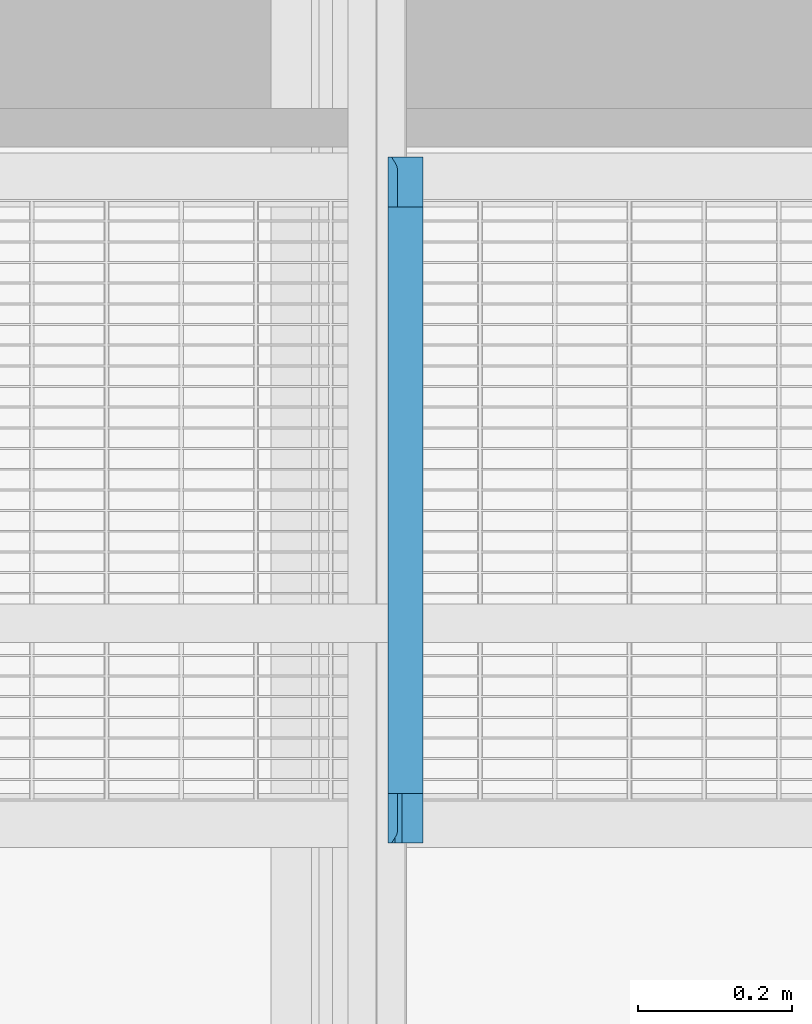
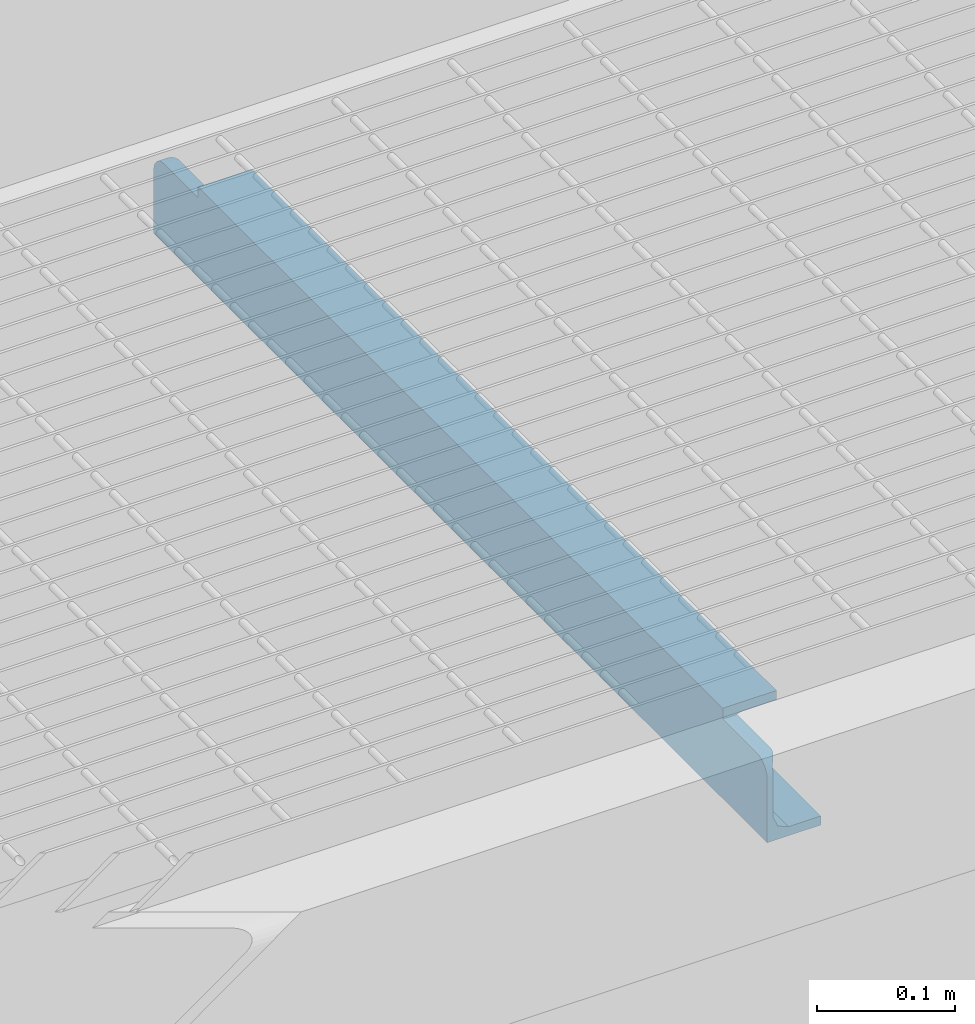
# One storey, part 47 of 75: 1 beam.
"""IFC2X3 building model written with IfcOpenShell, lengths in metres."""

from ifc_helpers import new_model, entity, si_unit, converted_unit, derived_unit, direction, frame, origin, place, context, subcontext, project, spatial, faceted_brep, material, type_object, element, save


model = new_model("IFC2X3")

# Units and contexts
model_context = context("Model", 3, precision=1e-05, world=origin(), true_north=direction((6.12303176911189e-17, 1.0)))
body_context = subcontext(model_context, "Body", "Model", "MODEL_VIEW")
ifc_project = project(units=[si_unit("LENGTHUNIT", "METRE"), si_unit("AREAUNIT", "SQUARE_METRE"), si_unit("VOLUMEUNIT", "CUBIC_METRE"), converted_unit("PLANEANGLEUNIT", "DEGREE", entity("IfcRatioMeasure", 0.0174532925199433), si_unit("PLANEANGLEUNIT", "RADIAN"), dimensions=[0, 0, 0, 0, 0, 0, 0]), si_unit("MASSUNIT", "GRAM", prefix="KILO"), derived_unit("MASSDENSITYUNIT", [(si_unit("MASSUNIT", "GRAM", prefix="KILO"), 1), (si_unit("LENGTHUNIT", "METRE"), -3)]), derived_unit("MOMENTOFINERTIAUNIT", [(si_unit("LENGTHUNIT", "METRE"), 4)]), si_unit("TIMEUNIT", "SECOND"), si_unit("FREQUENCYUNIT", "HERTZ"), si_unit("THERMODYNAMICTEMPERATUREUNIT", "DEGREE_CELSIUS"), derived_unit("THERMALTRANSMITTANCEUNIT", [(si_unit("MASSUNIT", "GRAM", prefix="KILO"), 1), (si_unit("THERMODYNAMICTEMPERATUREUNIT", "KELVIN"), -1), (si_unit("TIMEUNIT", "SECOND"), -3)]), derived_unit("VOLUMETRICFLOWRATEUNIT", [(si_unit("LENGTHUNIT", "METRE"), 3), (si_unit("TIMEUNIT", "SECOND"), -1)]), si_unit("ELECTRICCURRENTUNIT", "AMPERE"), si_unit("ELECTRICVOLTAGEUNIT", "VOLT"), si_unit("POWERUNIT", "WATT"), si_unit("FORCEUNIT", "NEWTON", prefix="KILO"), si_unit("ILLUMINANCEUNIT", "LUX"), si_unit("LUMINOUSFLUXUNIT", "LUMEN"), si_unit("LUMINOUSINTENSITYUNIT", "CANDELA"), derived_unit("USERDEFINED", [(si_unit("MASSUNIT", "GRAM", prefix="KILO"), -1), (si_unit("LENGTHUNIT", "METRE"), -2), (si_unit("TIMEUNIT", "SECOND"), 3), (si_unit("LUMINOUSFLUXUNIT", "LUMEN"), 1)]), derived_unit("LINEARVELOCITYUNIT", [(si_unit("LENGTHUNIT", "METRE"), 1), (si_unit("TIMEUNIT", "SECOND"), -1)]), si_unit("PRESSUREUNIT", "PASCAL"), derived_unit("USERDEFINED", [(si_unit("LENGTHUNIT", "METRE"), -2), (si_unit("MASSUNIT", "GRAM", prefix="KILO"), 1), (si_unit("TIMEUNIT", "SECOND"), -2)]), derived_unit("LINEARFORCEUNIT", [(si_unit("MASSUNIT", "GRAM", prefix="KILO"), 1), (si_unit("LENGTHUNIT", "METRE"), 1), (si_unit("TIMEUNIT", "SECOND"), -2), (si_unit("LENGTHUNIT", "METRE"), -1)]), derived_unit("PLANARFORCEUNIT", [(si_unit("MASSUNIT", "GRAM", prefix="KILO"), 1), (si_unit("LENGTHUNIT", "METRE"), 1), (si_unit("TIMEUNIT", "SECOND"), -2), (si_unit("LENGTHUNIT", "METRE"), -2)])], contexts=[model_context])

# Site, building, storey
site_placement = place(None, origin())
site = spatial("IfcSite", under=ifc_project, at=site_placement, Name="Superficie", CompositionType="ELEMENT")
building_placement = place(site_placement, origin())
building = spatial("IfcBuilding", under=site, at=building_placement, Name="Telegestiones", CompositionType="ELEMENT")
storey_placement = place(building_placement, origin())
storey = spatial("IfcBuildingStorey", under=building, at=storey_placement, Name="Nivel 0_NPT", CompositionType="ELEMENT", Elevation=0.0)

# Beam
ifc_material = material(Name="Metal - Acero - 345 MPa")
beam_type = type_object("IfcBeamType", Name="U-Canales de ala paralela:UAP80", PredefinedType="NOTDEFINED")
beam_placement = place(storey_placement, frame((7.46928977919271, 12.7898119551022, 17.78), z_axis=(0.0, 0.0, 1.0), x_axis=(0.0, -1.0, 0.0)))
element("IfcBeam", 1, at=beam_placement, inside=storey, type_object=beam_type, material=ifc_material, Name="U-Canales de ala paralela:UAP80", ObjectType="U-Canales de ala paralela:UAP80", context=body_context, shape_type="Brep", body=[
    faceted_brep([(-0.00159527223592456, 0.0450000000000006, 0.0), (-0.00159527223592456, 0.0450000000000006, 0.00799999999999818), (-0.00159527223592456, 0.0180000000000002, 0.00799999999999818), (-0.00159527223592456, 0.0157019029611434, 0.00895190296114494), (-0.00159527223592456, 0.0134038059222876, 0.00990380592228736), (-0.00159527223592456, 0.0111057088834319, 0.0108557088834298), (-0.00159527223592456, 0.00880761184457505, 0.0118076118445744), (-0.00159527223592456, 0.00771840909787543, 0.0144371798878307), (-0.00159527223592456, 0.00662920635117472, 0.0170667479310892), (-0.00159527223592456, 0.00499999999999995, 0.0209999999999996), (-0.00159527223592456, 0.00499999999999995, 0.0579413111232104), (-0.00159527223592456, 0.0, 0.0579413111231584), (-0.00159527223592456, 0.0, 0.0), (-0.826295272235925, 0.0, 0.0799999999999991), (-0.0658952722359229, 0.0, 0.0799999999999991), (-0.0658952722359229, 0.0450000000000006, 0.0799999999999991), (-0.826295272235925, 0.0450000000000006, 0.0799999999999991), (-0.0658952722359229, 0.0450000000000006, 0.0719999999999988), (-0.826295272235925, 0.0450000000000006, 0.0719999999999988), (-0.890795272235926, 0.0450000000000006, 0.00799999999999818), (-0.890795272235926, 0.0450000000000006, 0.0), (-0.0658952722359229, 0.0180000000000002, 0.0719999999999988), (-0.128842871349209, 0.0180000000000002, 0.0719999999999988), (-0.194304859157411, 0.0180000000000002, 0.0719999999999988), (-0.322714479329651, 0.0180000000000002, 0.0719999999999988), (-0.44860967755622, 0.0180000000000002, 0.072000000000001), (-0.574504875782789, 0.0180000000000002, 0.072000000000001), (-0.700400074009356, 0.0180000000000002, 0.0719999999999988), (-0.763347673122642, 0.0180000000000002, 0.0719999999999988), (-0.826295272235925, 0.0180000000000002, 0.0719999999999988), (-0.125338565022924, 0.0087347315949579, 0.0681189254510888), (-0.00990097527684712, 0.00971902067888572, 0.069021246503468), (-0.00722207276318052, 0.00805140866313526, 0.0673681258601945), (-0.544296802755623, 0.0066719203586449, 0.0653776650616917), (-0.463738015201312, 0.00590908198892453, 0.0637759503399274), (-0.537050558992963, 0.00560250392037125, 0.0629117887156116), (-0.792641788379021, 0.00525335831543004, 0.0615540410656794), (-0.794133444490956, 0.00499999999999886, 0.0589999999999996), (-0.890381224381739, 0.00499999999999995, 0.0589999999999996), (-0.0658952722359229, 0.0119378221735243, 0.0705000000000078), (-0.13867918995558, 0.0108749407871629, 0.0698735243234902), (-0.289684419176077, 0.00818591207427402, 0.0675254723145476), (-0.235689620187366, 0.00983678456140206, 0.0691174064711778), (-0.221438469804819, 0.00711297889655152, 0.0661044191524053), (-0.828358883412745, 0.00588467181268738, 0.0637136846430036), (-0.754190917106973, 0.00586488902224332, 0.063662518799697), (-0.122570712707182, 0.00586898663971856, 0.0636731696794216), (-0.00489743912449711, 0.00653775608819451, 0.0651332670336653), (-0.00303111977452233, 0.00542889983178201, 0.0623117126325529), (-0.139747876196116, 0.0133736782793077, 0.0711489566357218), (-0.0658952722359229, 0.0148775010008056, 0.0716194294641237), (-0.826295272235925, 0.0148775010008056, 0.0716194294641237), (-0.725006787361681, 0.007054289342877, 0.0660136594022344), (-0.806159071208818, 0.007190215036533, 0.066221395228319), (-0.751188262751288, 0.00871967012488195, 0.0681035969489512), (-0.821741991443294, 0.00878771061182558, 0.0681724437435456), (-0.73187387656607, 0.0157137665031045, 0.0717973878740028), (-0.656388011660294, 0.0158751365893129, 0.0718251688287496), (-0.887293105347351, 0.00653775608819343, 0.0651332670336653), (-0.884968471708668, 0.00805140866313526, 0.0673681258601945), (-0.15342786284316, 0.00681728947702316, 0.0656292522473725), (-0.0851009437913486, 0.00708655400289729, 0.0660637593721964), (-0.223870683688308, 0.00557806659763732, 0.0628334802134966), (-0.324805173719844, 0.00685931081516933, 0.0656996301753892), (-0.889159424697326, 0.00542889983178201, 0.0623117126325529), (-0.0163952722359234, 0.0119378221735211, 0.0705000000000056), (-0.0129474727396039, 0.0112305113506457, 0.0700983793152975), (-0.875795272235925, 0.0119378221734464, 0.0704999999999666), (-0.826295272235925, 0.0119378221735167, 0.0705000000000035), (-0.879243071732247, 0.0112305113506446, 0.0700983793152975), (-0.399380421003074, 0.00536884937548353, 0.0620747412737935), (-0.392844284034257, 0.00621995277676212, 0.0644982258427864), (-0.226457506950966, 0.0133736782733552, 0.0711489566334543), (-0.161573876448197, 0.0157225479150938, 0.0717989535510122), (-0.753454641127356, 0.0133736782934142, 0.0711489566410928), (-0.66760529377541, 0.0133736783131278, 0.0711489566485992), (-0.710529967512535, 0.0108989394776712, 0.069889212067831), (-0.882289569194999, 0.00971902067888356, 0.0690212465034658), (-0.390878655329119, 0.0147556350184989, 0.0715886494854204), (-0.511557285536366, 0.0147219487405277, 0.0715799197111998), (-0.447031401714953, 0.0116878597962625, 0.0703647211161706), (-0.155170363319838, 0.00522625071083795, 0.0614148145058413), (-0.0800317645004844, 0.00520855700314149, 0.0613192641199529), (-0.127704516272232, 0.00499999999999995, 0.0589999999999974), (-0.717894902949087, 0.00523967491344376, 0.0614847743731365), (-0.66446315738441, 0.00890351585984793, 0.0682873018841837), (-0.313627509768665, 0.0152996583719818, 0.0717164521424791), (-0.23643414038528, 0.0158580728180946, 0.0718223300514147), (-0.566912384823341, 0.011307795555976, 0.0701451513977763), (-0.44972530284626, 0.007164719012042, 0.0661830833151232), (-0.330812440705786, 0.01176120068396, 0.0704051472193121), (-0.00180932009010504, 0.00499999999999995, 0.0589999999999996), (-0.374471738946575, 0.00795566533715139, 0.067252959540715), (-0.339661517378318, 0.00960203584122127, 0.0689234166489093), (-0.495596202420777, 0.00856943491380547, 0.0679478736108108), (-0.419471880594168, 0.00955595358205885, 0.0688842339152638), (-0.591250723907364, 0.0142535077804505, 0.0714484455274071), (-0.637492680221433, 0.0107328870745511, 0.0697791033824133), (-0.580926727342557, 0.00847032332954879, 0.0678422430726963), (-0.614751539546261, 0.00554163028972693, 0.0627133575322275), (-0.479182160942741, 0.00521908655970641, 0.0613766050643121), (-0.63679408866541, 0.00709380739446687, 0.0660749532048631), (-0.601637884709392, 0.00499999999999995, 0.0589999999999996), (-0.697885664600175, 0.00499999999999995, 0.0589999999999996), (-0.682036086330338, 0.00583156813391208, 0.0635748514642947), (-0.50539010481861, 0.00499999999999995, 0.0589999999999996), (-0.327009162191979, 0.00576169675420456, 0.0633845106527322), (-0.253599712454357, 0.00499999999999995, 0.0589999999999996), (-0.379494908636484, 0.00499999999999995, 0.0589999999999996), (-0.320300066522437, 0.00499999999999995, 0.0209999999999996), (-0.25338564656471, 0.00499999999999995, 0.0209999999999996), (-0.320300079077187, 0.0057508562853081, 0.0166458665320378), (-0.387214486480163, 0.00499999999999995, 0.0209999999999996), (-0.7395989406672, 0.0155186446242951, 0.00823900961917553), (-0.726697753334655, 0.0130251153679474, 0.00898956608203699), (-0.64723797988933, 0.0147457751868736, 0.00841389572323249), (-0.815533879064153, 0.0157610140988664, 0.00819426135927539), (-0.816073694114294, 0.0130251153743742, 0.0089895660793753), (-0.450162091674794, 0.0129391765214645, 0.00902552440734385), (-0.339012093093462, 0.0142912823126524, 0.00854024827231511), (-0.460026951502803, 0.0157277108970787, 0.00820012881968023), (-0.890795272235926, 0.0146353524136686, 0.00844296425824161), (-0.890795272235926, 0.0115000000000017, 0.00974166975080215), (-0.237690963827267, 0.00632406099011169, 0.0152840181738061), (-0.160412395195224, 0.00699071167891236, 0.0140865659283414), (-0.272157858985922, 0.00779328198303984, 0.0129487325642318), (-0.786764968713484, 0.010086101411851, 0.0106864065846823), (-0.668704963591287, 0.00938049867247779, 0.0112683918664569), (-0.764900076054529, 0.0180000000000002, 0.00800000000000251), (-0.890795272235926, 0.0180000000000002, 0.00800000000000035), (-0.890795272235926, 0.00880761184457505, 0.0118076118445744), (-0.890795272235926, 0.00674166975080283, 0.0144999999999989), (-0.814920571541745, 0.00768640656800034, 0.013086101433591), (-0.516412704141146, 0.0052207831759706, 0.0186142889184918), (-0.449152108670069, 0.00533707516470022, 0.0180588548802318), (-0.543517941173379, 0.00580869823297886, 0.0164864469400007), (-0.7162319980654, 0.00634171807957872, 0.0152480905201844), (-0.653545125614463, 0.0058041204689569, 0.0164988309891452), (-0.594912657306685, 0.00737648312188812, 0.013507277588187), (-0.764900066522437, 0.00499999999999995, 0.0209999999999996), (-0.63900489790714, 0.00499999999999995, 0.0209999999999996), (-0.726095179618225, 0.00531473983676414, 0.0181567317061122), (-0.552968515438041, 0.0133322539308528, 0.00886689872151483), (-0.785985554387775, 0.00598956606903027, 0.0160251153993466), (-0.812932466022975, 0.00521472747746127, 0.0186469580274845), (-0.724578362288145, 0.00768640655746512, 0.0130861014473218), (-0.890795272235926, 0.00544296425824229, 0.0176353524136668), (-0.890795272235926, 0.00499999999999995, 0.0209999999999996), (-0.645709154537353, 0.0118808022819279, 0.00953023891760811), (-0.60753108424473, 0.00522938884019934, 0.0185686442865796), (-0.5760572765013, 0.00499999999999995, 0.0209999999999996), (-0.242607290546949, 0.0154504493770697, 0.00825245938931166), (-0.253535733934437, 0.0129416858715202, 0.00902446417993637), (-0.450162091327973, 0.00665443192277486, 0.0146534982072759), (-0.362103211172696, 0.00693621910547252, 0.0141741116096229), (-0.382421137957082, 0.00880834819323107, 0.0118068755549), (-0.50463990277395, 0.00839296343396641, 0.0122418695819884), (-0.523524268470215, 0.00689342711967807, 0.014243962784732), (-0.096403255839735, 0.00849360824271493, 0.0121327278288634), (-0.0810038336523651, 0.00628511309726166, 0.0153642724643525), (-0.105489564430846, 0.0112139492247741, 0.00991173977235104), (-0.0882125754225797, 0.014072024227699, 0.00860762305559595), (-0.184568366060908, 0.00941996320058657, 0.0112335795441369), (-0.190438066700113, 0.0054399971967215, 0.0176464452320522), (-0.0784437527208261, 0.00527256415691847, 0.0183519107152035), (-0.127490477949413, 0.00499999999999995, 0.0209999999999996), (-0.350050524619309, 0.0103830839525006, 0.0104651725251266), (-0.639004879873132, 0.0180000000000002, 0.00800000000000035), (-0.576057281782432, 0.0180000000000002, 0.00799999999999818), (-0.581701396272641, 0.0100861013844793, 0.0106864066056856), (-0.544583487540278, 0.0157404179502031, 0.00819787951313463), (-0.513109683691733, 0.0180000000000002, 0.00800000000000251), (-0.496554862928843, 0.0106756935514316, 0.0102596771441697), (-0.513109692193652, 0.00499999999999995, 0.0209999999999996), (-0.416826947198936, 0.0107321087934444, 0.010221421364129), (-0.283710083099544, 0.010794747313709, 0.01017944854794), (-0.0980000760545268, 0.0180000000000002, 0.00800000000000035), (-0.14686756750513, 0.0158367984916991, 0.00818124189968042), (-0.204108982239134, 0.0113455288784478, 0.00983227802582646), (-0.290809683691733, 0.0180000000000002, 0.00799999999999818), (-0.387214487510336, 0.0180000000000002, 0.00800000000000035), (-0.194404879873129, 0.0180000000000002, 0.00800000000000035), (-0.17848587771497, 0.0134284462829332, 0.00883032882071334), (-0.00169276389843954, 0.00499999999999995, 0.0584725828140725), (-0.890795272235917, 0.00499999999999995, 0.0555000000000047), (-0.890691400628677, 0.00499999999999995, 0.0572622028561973), (-0.890795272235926, 0.0, 0.0), (-0.0163952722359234, 0.0, 0.0705000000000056), (-0.0658952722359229, 0.0, 0.0705000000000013), (-0.826295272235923, 0.0, 0.0705000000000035), (-0.875795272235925, 0.0, 0.0705000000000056), (-0.87967755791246, 0.0, 0.0699888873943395), (-0.883295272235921, 0.0, 0.0684903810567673), (-0.886401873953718, 0.0, 0.0661066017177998), (-0.888785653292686, 0.0, 0.063000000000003), (-0.890284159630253, 0.0, 0.05938228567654), (-0.890795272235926, 0.0, 0.0555000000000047), (-0.00256789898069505, 0.0, 0.0613140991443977), (-0.00429775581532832, 0.0, 0.0643684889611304), (-0.00669011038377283, 0.0, 0.0669372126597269), (-0.00961394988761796, 0.0, 0.0688795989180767), (-0.012909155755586, 0.0, 0.0700892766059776)], [[[0, 1, 2, 3, 4, 5, 6, 7, 8, 9, 10, 11, 12]], [[13, 14, 15, 16]], [[16, 15, 17, 18]], [[19, 1, 0, 20]], [[18, 17, 21, 22, 23, 24, 25, 26, 27, 28, 29]], [[30, 31, 32]], [[33, 34, 35]], [[36, 37, 38]], [[39, 30, 40]], [[30, 39, 31]], [[41, 42, 43]], [[44, 45, 36]], [[46, 47, 48]], [[39, 49, 50]], [[22, 21, 50]], [[29, 28, 51]], [[52, 53, 54]], [[54, 53, 55]], [[30, 43, 42]], [[56, 27, 57]], [[53, 58, 59]], [[56, 28, 27]], [[60, 61, 46]], [[62, 63, 43]], [[58, 44, 64]], [[65, 66, 39]], [[67, 68, 69]], [[70, 34, 71]], [[40, 49, 39]], [[72, 73, 49]], [[32, 61, 30]], [[74, 75, 76]], [[74, 68, 51]], [[68, 77, 69]], [[25, 24, 78]], [[46, 61, 47]], [[59, 77, 55]], [[79, 78, 80]], [[81, 82, 83]], [[68, 55, 77]], [[36, 45, 84]], [[66, 31, 39]], [[76, 85, 54]], [[86, 24, 87]], [[46, 48, 82]], [[79, 80, 88]], [[34, 89, 71]], [[58, 53, 44]], [[87, 73, 72]], [[45, 53, 52]], [[59, 55, 53]], [[54, 55, 68]], [[42, 90, 72]], [[36, 84, 37]], [[91, 82, 48]], [[41, 92, 93]], [[94, 88, 80]], [[43, 63, 41]], [[80, 78, 90]], [[90, 93, 95]], [[57, 26, 96]], [[26, 25, 79]], [[88, 96, 79]], [[97, 76, 75]], [[93, 92, 95]], [[98, 97, 88]], [[35, 99, 33]], [[33, 98, 94]], [[100, 34, 70]], [[50, 73, 22]], [[42, 72, 40]], [[54, 68, 76]], [[74, 51, 56]], [[74, 76, 68]], [[54, 85, 52]], [[101, 85, 98]], [[85, 76, 97]], [[101, 98, 33]], [[94, 98, 88]], [[102, 103, 99]], [[89, 34, 33]], [[33, 99, 101]], [[45, 104, 84]], [[105, 102, 35]], [[86, 87, 72]], [[25, 78, 79]], [[36, 38, 64]], [[60, 46, 62]], [[49, 40, 72]], [[40, 30, 42]], [[45, 52, 104]], [[101, 52, 85]], [[23, 22, 73]], [[87, 23, 73]], [[49, 73, 50]], [[87, 24, 23]], [[78, 24, 86]], [[56, 57, 75]], [[28, 56, 51]], [[74, 56, 75]], [[75, 57, 96]], [[57, 27, 26]], [[75, 96, 88]], [[79, 96, 26]], [[100, 35, 34]], [[106, 107, 108]], [[45, 44, 53]], [[44, 36, 64]], [[103, 37, 84]], [[84, 99, 103]], [[99, 84, 104]], [[104, 101, 99]], [[101, 104, 52]], [[85, 97, 98]], [[88, 97, 75]], [[62, 107, 106]], [[83, 107, 81]], [[99, 35, 102]], [[105, 35, 100]], [[100, 108, 105]], [[71, 106, 70]], [[70, 108, 100]], [[70, 106, 108]], [[106, 71, 63]], [[89, 95, 92]], [[71, 89, 92]], [[94, 89, 33]], [[47, 61, 32]], [[43, 30, 60]], [[61, 60, 30]], [[43, 60, 62]], [[46, 82, 81]], [[83, 82, 91]], [[81, 62, 46]], [[62, 81, 107]], [[90, 42, 93]], [[92, 41, 63]], [[41, 93, 42]], [[80, 90, 95]], [[95, 94, 80]], [[94, 95, 89]], [[92, 63, 71]], [[62, 106, 63]], [[86, 90, 78]], [[90, 86, 72]], [[109, 110, 111, 112]], [[113, 114, 115]], [[113, 116, 117]], [[118, 119, 120]], [[121, 122, 117]], [[123, 124, 125]], [[117, 122, 126]], [[127, 114, 126]], [[116, 128, 129]], [[130, 126, 122]], [[131, 132, 130]], [[133, 134, 135]], [[136, 137, 138]], [[139, 140, 141]], [[142, 118, 120]], [[141, 143, 144]], [[136, 145, 143]], [[131, 146, 143]], [[131, 143, 132]], [[144, 146, 147]], [[143, 146, 144]], [[127, 148, 114]], [[114, 113, 117]], [[145, 126, 132]], [[127, 145, 138]], [[133, 149, 150]], [[151, 119, 152]], [[137, 135, 138]], [[153, 154, 155]], [[156, 157, 153]], [[158, 159, 7]], [[160, 4, 161]], [[162, 125, 124]], [[159, 163, 164]], [[165, 163, 110]], [[164, 165, 9]], [[125, 166, 155]], [[111, 110, 163]], [[163, 159, 124]], [[130, 132, 126]], [[145, 132, 143]], [[121, 117, 116]], [[114, 117, 126]], [[121, 116, 129]], [[113, 128, 116]], [[113, 167, 128]], [[167, 113, 115]], [[168, 167, 115]], [[115, 114, 148]], [[169, 142, 148]], [[142, 120, 170]], [[153, 155, 156]], [[115, 148, 142]], [[127, 169, 148]], [[170, 171, 168]], [[172, 118, 142]], [[138, 169, 127]], [[145, 127, 126]], [[169, 138, 156]], [[138, 157, 156]], [[153, 135, 134]], [[140, 149, 141]], [[153, 134, 111]], [[112, 134, 173]], [[156, 172, 169]], [[155, 166, 174]], [[174, 172, 156]], [[175, 125, 162]], [[163, 124, 123]], [[154, 123, 125]], [[161, 176, 177]], [[162, 124, 158]], [[161, 3, 176]], [[175, 178, 152]], [[158, 160, 162]], [[179, 180, 119]], [[181, 179, 151]], [[166, 175, 119]], [[182, 151, 152]], [[151, 179, 119]], [[120, 171, 170]], [[5, 160, 158]], [[115, 170, 168]], [[142, 170, 115]], [[120, 180, 171]], [[180, 120, 119]], [[169, 172, 142]], [[118, 172, 174]], [[119, 118, 174]], [[155, 174, 156]], [[162, 160, 178]], [[7, 6, 158]], [[182, 160, 161]], [[158, 6, 5]], [[8, 7, 159]], [[164, 8, 159]], [[124, 159, 158]], [[8, 164, 9]], [[165, 164, 163]], [[177, 182, 161]], [[182, 177, 151]], [[182, 152, 178]], [[175, 152, 119]], [[182, 178, 160]], [[162, 178, 175]], [[174, 166, 119]], [[175, 166, 125]], [[181, 151, 177]], [[4, 3, 161]], [[3, 2, 176]], [[181, 177, 176]], [[141, 136, 143]], [[139, 144, 147]], [[149, 137, 141]], [[141, 144, 139]], [[145, 136, 138]], [[137, 136, 141]], [[134, 112, 111]], [[150, 149, 140]], [[149, 135, 137]], [[133, 135, 149]], [[157, 135, 153]], [[135, 157, 138]], [[155, 154, 125]], [[154, 153, 111]], [[123, 111, 163]], [[111, 123, 154]], [[5, 4, 160]], [[133, 173, 134]], [[150, 173, 133]], [[183, 10, 9, 165, 110, 109, 112, 173, 150, 140, 139, 147, 184, 185, 38, 37, 103, 102, 105, 108, 107, 83, 91]], [[19, 129, 128, 167, 168, 171, 180, 179, 181, 176, 2, 1]], [[20, 0, 12, 186]], [[187, 188, 14, 13, 189, 190, 191, 192, 193, 194, 195, 196, 186, 12, 11, 197, 198, 199, 200, 201]], [[39, 50, 21, 17, 15, 14, 188]], [[39, 188, 187, 65]], [[68, 67, 190, 189]], [[187, 201, 66]], [[200, 199, 32]], [[201, 200, 31]], [[65, 187, 66]], [[66, 201, 31]], [[200, 32, 31]], [[199, 47, 32]], [[48, 198, 197]], [[91, 11, 183]], [[11, 91, 197]], [[48, 197, 91]], [[48, 47, 198]], [[10, 183, 11]], [[198, 47, 199]], [[146, 131, 130, 122, 121, 129, 19, 20, 186, 196, 184, 147]], [[185, 184, 196]], [[185, 196, 195]], [[64, 195, 194]], [[38, 185, 195]], [[58, 64, 194]], [[38, 195, 64]], [[194, 193, 58]], [[193, 192, 59]], [[191, 190, 69]], [[192, 191, 77]], [[59, 192, 77]], [[69, 77, 191]], [[67, 69, 190]], [[193, 59, 58]], [[68, 189, 13, 16, 18, 29, 51]]]),
])

save(model, "model.ifc")
